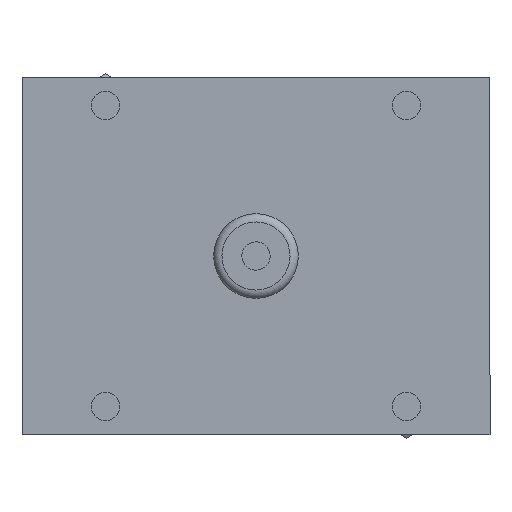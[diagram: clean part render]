
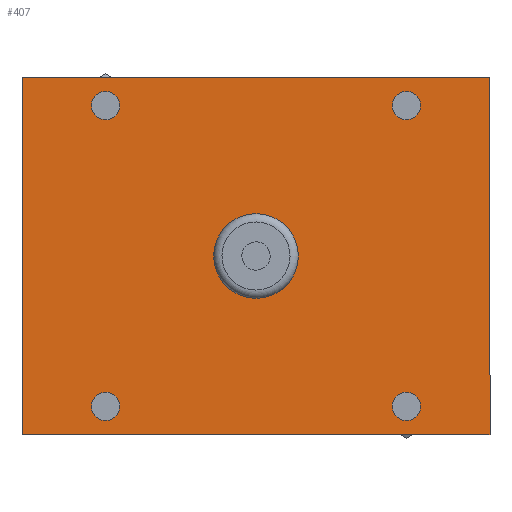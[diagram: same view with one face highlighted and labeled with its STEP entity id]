
A CAD part, front view. The second image highlights one B-rep face of the part: STEP entity #407.
In plain terms, the highlighted planar face has unit normal (0, -1, 0).
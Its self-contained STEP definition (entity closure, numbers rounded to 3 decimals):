
#297=CARTESIAN_POINT('',(0.,0.,-9.936));
#298=VERTEX_POINT('',#297);
#299=CARTESIAN_POINT('',(0.,0.0,0.));
#300=DIRECTION('',(0.0,1.0,0.0));
#301=DIRECTION('',(0.0,0.0,1.0));
#302=AXIS2_PLACEMENT_3D('',#299,#300,#301);
#303=CIRCLE('',#302,9.936);
#304=EDGE_CURVE('',#298,#298,#303,.T.);
#321=CARTESIAN_POINT('',(0.,0.,0.));
#322=DIRECTION('',(0.0,1.0,0.0));
#323=DIRECTION('',(0.0,0.0,-1.0));
#324=AXIS2_PLACEMENT_3D('',#321,#322,#323);
#325=PLANE('',#324);
#326=CARTESIAN_POINT('',(-55.,0.,42.));
#327=VERTEX_POINT('',#326);
#328=CARTESIAN_POINT('',(-55.,0.,-42.));
#329=VERTEX_POINT('',#328);
#330=CARTESIAN_POINT('',(-55.,0.,42.));
#331=DIRECTION('',(0.0,0.0,-1.0));
#332=VECTOR('',#331,84.);
#333=LINE('',#330,#332);
#334=EDGE_CURVE('',#327,#329,#333,.T.);
#335=ORIENTED_EDGE('',*,*,#334,.T.);
#336=CARTESIAN_POINT('',(55.,0.,-42.));
#337=VERTEX_POINT('',#336);
#338=CARTESIAN_POINT('',(-55.,0.,-42.));
#339=DIRECTION('',(1.0,0.0,0.0));
#340=VECTOR('',#339,110.);
#341=LINE('',#338,#340);
#342=EDGE_CURVE('',#329,#337,#341,.T.);
#343=ORIENTED_EDGE('',*,*,#342,.T.);
#344=CARTESIAN_POINT('',(55.,0.,42.));
#345=VERTEX_POINT('',#344);
#346=CARTESIAN_POINT('',(55.,0.,-42.));
#347=DIRECTION('',(0.0,0.0,1.0));
#348=VECTOR('',#347,84.0);
#349=LINE('',#346,#348);
#350=EDGE_CURVE('',#337,#345,#349,.T.);
#351=ORIENTED_EDGE('',*,*,#350,.T.);
#352=CARTESIAN_POINT('',(55.,0.,42.));
#353=DIRECTION('',(-1.0,0.0,0.0));
#354=VECTOR('',#353,110.0);
#355=LINE('',#352,#354);
#356=EDGE_CURVE('',#345,#327,#355,.T.);
#357=ORIENTED_EDGE('',*,*,#356,.T.);
#358=EDGE_LOOP('',(#335,#343,#351,#357));
#359=FACE_OUTER_BOUND('',#358,.T.);
#360=CARTESIAN_POINT('',(-35.355,0.,-32.032));
#361=VERTEX_POINT('',#360);
#362=CARTESIAN_POINT('',(-35.355,0.,-35.355));
#363=DIRECTION('',(0.0,1.0,0.0));
#364=DIRECTION('',(0.0,0.0,1.0));
#365=AXIS2_PLACEMENT_3D('',#362,#363,#364);
#366=CIRCLE('',#365,3.324);
#367=EDGE_CURVE('',#361,#361,#366,.T.);
#368=ORIENTED_EDGE('',*,*,#367,.T.);
#369=EDGE_LOOP('',(#368));
#370=FACE_BOUND('',#369,.T.);
#371=CARTESIAN_POINT('',(35.355,0.,-32.032));
#372=VERTEX_POINT('',#371);
#373=CARTESIAN_POINT('',(35.355,0.,-35.355));
#374=DIRECTION('',(0.0,1.0,0.0));
#375=DIRECTION('',(0.0,0.0,1.0));
#376=AXIS2_PLACEMENT_3D('',#373,#374,#375);
#377=CIRCLE('',#376,3.324);
#378=EDGE_CURVE('',#372,#372,#377,.T.);
#379=ORIENTED_EDGE('',*,*,#378,.T.);
#380=EDGE_LOOP('',(#379));
#381=FACE_BOUND('',#380,.T.);
#382=CARTESIAN_POINT('',(35.355,0.,38.679));
#383=VERTEX_POINT('',#382);
#384=CARTESIAN_POINT('',(35.355,0.,35.355));
#385=DIRECTION('',(0.0,1.0,0.0));
#386=DIRECTION('',(0.0,0.0,1.0));
#387=AXIS2_PLACEMENT_3D('',#384,#385,#386);
#388=CIRCLE('',#387,3.324);
#389=EDGE_CURVE('',#383,#383,#388,.T.);
#390=ORIENTED_EDGE('',*,*,#389,.T.);
#391=EDGE_LOOP('',(#390));
#392=FACE_BOUND('',#391,.T.);
#393=CARTESIAN_POINT('',(-35.355,0.,38.679));
#394=VERTEX_POINT('',#393);
#395=CARTESIAN_POINT('',(-35.355,0.,35.355));
#396=DIRECTION('',(0.0,1.0,0.0));
#397=DIRECTION('',(0.0,0.0,1.0));
#398=AXIS2_PLACEMENT_3D('',#395,#396,#397);
#399=CIRCLE('',#398,3.324);
#400=EDGE_CURVE('',#394,#394,#399,.T.);
#401=ORIENTED_EDGE('',*,*,#400,.T.);
#402=EDGE_LOOP('',(#401));
#403=FACE_BOUND('',#402,.T.);
#404=ORIENTED_EDGE('',*,*,#304,.T.);
#405=EDGE_LOOP('',(#404));
#406=FACE_BOUND('',#405,.T.);
#407=ADVANCED_FACE('',(#359,#370,#381,#392,#403,#406),#325,.F.);
